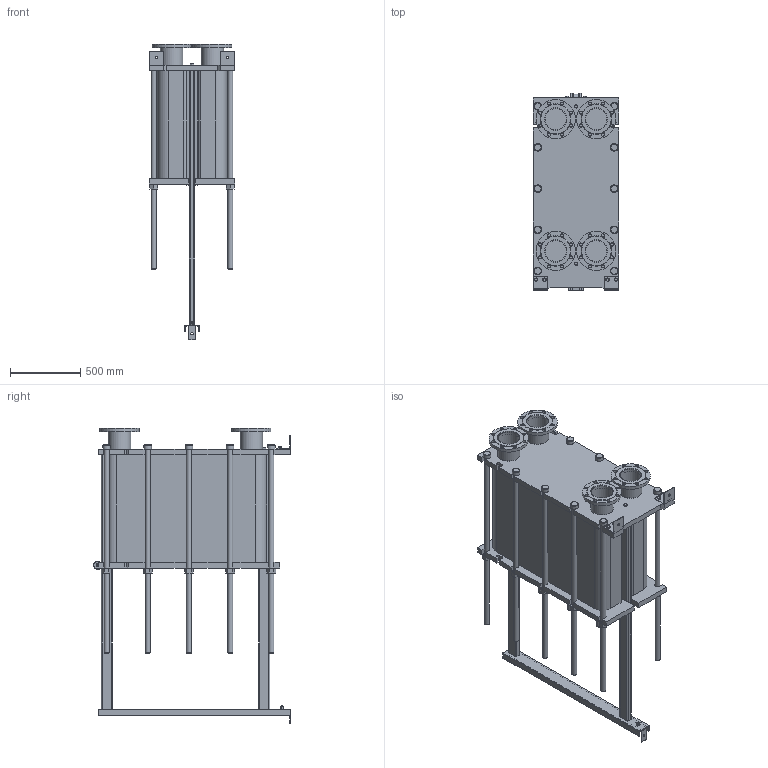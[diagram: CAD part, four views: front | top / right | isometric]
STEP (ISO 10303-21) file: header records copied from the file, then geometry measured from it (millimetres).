
FILE_DESCRIPTION(/* description */ (''),/* implementation_level */ '2;1');
FILE_NAME(/* name */ 'C:\Users\zhuro\Desktop\ENCO\TO\ЭН-041\ЭН-0,5-041-223-1.stp',/* time_stamp */ '2022-06-06T11:07:32+03:00',/* author */ ('zhuro'),/* organization */ (''),/* preprocessor_version */ 'ST-DEVELOPER v18.1',/* originating_system */ 'Autodesk Inventor 2022',/* authorisation */ '');
FILE_SCHEMA (('AUTOMOTIVE_DESIGN { 1 0 10303 214 3 1 1 }'));
Length unit declared in the file: millimetre
Products named in the file (1): ЭН-0,5-041-223-1
Bounding box: 610 x 1406.5 x 2112.5 mm (x, y, z)
Volume: 521827797 mm3; surface area: 11736560.3 mm2
Topology: 52 solids, 52 shells, 711 faces, 1696 edges, 1094 vertices
Faces by surface type: plane 487, cylinder 177, cone 41, torus 6
Full cylindrical faces by diameter (mm): 8 x4, 10 x2, 16 x8, 18 x3, 22 x32, 36 x24, 50 x1, 54 x10, 60 x12, 151 x4, 161 x8, 280 x4
Entity records: 22667 total; most frequent: CARTESIAN_POINT 5230, DIRECTION 3644, ORIENTED_EDGE 3392, EDGE_CURVE 1696, AXIS2_PLACEMENT_3D 1272, LINE 1100, VECTOR 1100, VERTEX_POINT 1094
